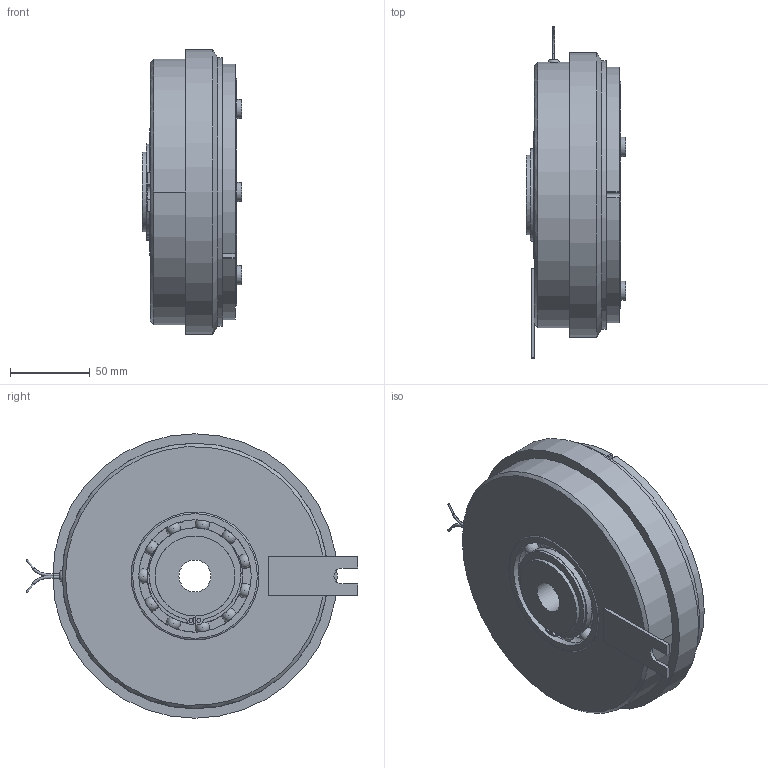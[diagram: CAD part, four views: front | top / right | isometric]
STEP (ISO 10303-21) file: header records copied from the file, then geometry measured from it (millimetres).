
FILE_DESCRIPTION(/* description */ (''),/* implementation_level */ '2;1');
FILE_NAME(/* name */ 'X:\INVENTOR\DISEGNI\08_Freni_Friz_Elettmag_Monodisco\08_25 EMSL\08_25_170_01 EMSL170\08_25_170_01 EMSL170@STEP.stp',/* time_stamp */ '2023-03-22T09:23:12+01:00',/* author */ ('alessio'),/* organization */ (''),/* preprocessor_version */ 'ST-DEVELOPER v18.1',/* originating_system */ 'Autodesk Inventor 2021',/* authorisation */ '');
FILE_SCHEMA (('AUTOMOTIVE_DESIGN { 1 0 10303 214 3 1 1 }'));
Length unit declared in the file: millimetre
Products named in the file (1): 08_25_170_01 EMSL170
Bounding box: 62 x 207.72 x 178 mm (x, y, z)
Volume: 1038469 mm3; surface area: 180428.8 mm2
Topology: 1 solids, 7 shells, 342 faces, 968 edges, 616 vertices
Faces by surface type: plane 134, cylinder 123, torus 53, sphere 22, cone 8, bspline 2
Full cylindrical faces by diameter (mm): 1.154 x2, 1.5 x1, 2.5 x2, 3 x5, 8 x3, 8.1 x3, 8.2 x6, 12 x3, 20 x1, 21 x3, 47 x1, 50 x4, 59.6 x4, 60 x1, 70.4 x4, 80 x3, 97 x1, 98 x1, 100 x1, 118 x1, 142 x1, 154 x1, 166.25 x1, 168 x1, 178 x1
Entity records: 13588 total; most frequent: CARTESIAN_POINT 4408, DIRECTION 1914, ORIENTED_EDGE 1850, EDGE_CURVE 925, AXIS2_PLACEMENT_3D 829, VERTEX_POINT 616, CIRCLE 488, EDGE_LOOP 435
